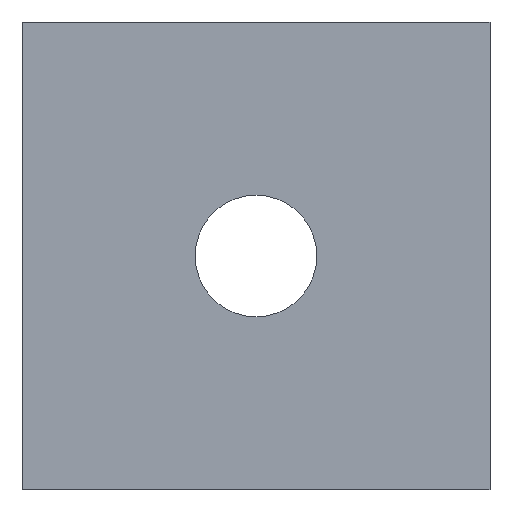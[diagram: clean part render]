
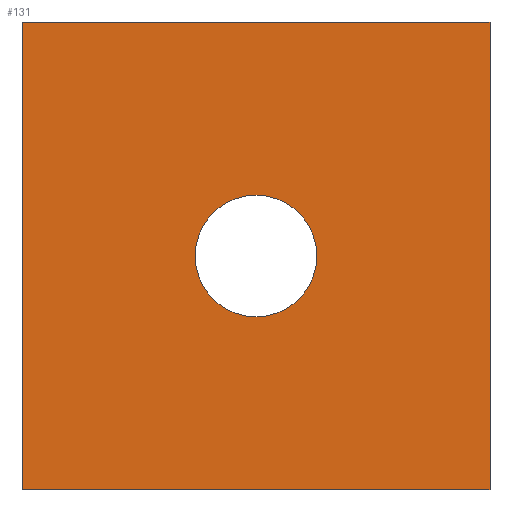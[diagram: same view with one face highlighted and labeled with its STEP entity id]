
A CAD part, left-side view. The second image highlights one B-rep face of the part: STEP entity #131.
In plain terms, the highlighted planar face has unit normal (-1, 0, 0).
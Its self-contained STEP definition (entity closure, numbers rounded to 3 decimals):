
#2 = ORIENTED_EDGE ( 'NONE', *, *, #583, .F. ) ;
#3 = CARTESIAN_POINT ( 'NONE',  ( -40., -12.5, 0. ) ) ;
#5 = CIRCLE ( 'NONE', #410, 3.25 ) ;
#33 = VECTOR ( 'NONE', #545, 1000. ) ;
#46 = DIRECTION ( 'NONE',  ( 1., 0., 0. ) ) ;
#82 = EDGE_CURVE ( 'NONE', #163, #578, #105, .T. ) ;
#99 = CARTESIAN_POINT ( 'NONE',  ( -40., 0., 15.75 ) ) ;
#105 = LINE ( 'NONE', #337, #257 ) ;
#108 = CARTESIAN_POINT ( 'NONE',  ( -40., -12.5, 25. ) ) ;
#110 = FACE_OUTER_BOUND ( 'NONE', #405, .T. ) ;
#123 = VERTEX_POINT ( 'NONE', #99 ) ;
#128 = CARTESIAN_POINT ( 'NONE',  ( -40., -12.5, 0. ) ) ;
#131 = ADVANCED_FACE ( 'NONE', ( #194, #110 ), #289, .F. ) ;
#132 = ORIENTED_EDGE ( 'NONE', *, *, #185, .F. ) ;
#136 = CARTESIAN_POINT ( 'NONE',  ( -40., 0., 9.25 ) ) ;
#138 = DIRECTION ( 'NONE',  ( 0., 0., -1. ) ) ;
#157 = DIRECTION ( 'NONE',  ( 0., -1., 0. ) ) ;
#163 = VERTEX_POINT ( 'NONE', #307 ) ;
#175 = ORIENTED_EDGE ( 'NONE', *, *, #302, .T. ) ;
#183 = CARTESIAN_POINT ( 'NONE',  ( -40., 0., 12.5 ) ) ;
#185 = EDGE_CURVE ( 'NONE', #163, #441, #357, .T. ) ;
#194 = FACE_BOUND ( 'NONE', #216, .T. ) ;
#197 = DIRECTION ( 'NONE',  ( 1., 0., 0. ) ) ;
#216 = EDGE_LOOP ( 'NONE', ( #355, #175 ) ) ;
#224 = VERTEX_POINT ( 'NONE', #128 ) ;
#234 = DIRECTION ( 'NONE',  ( 0., 0., -1. ) ) ;
#257 = VECTOR ( 'NONE', #234, 1000. ) ;
#270 = ORIENTED_EDGE ( 'NONE', *, *, #295, .T. ) ;
#277 = ORIENTED_EDGE ( 'NONE', *, *, #82, .T. ) ;
#280 = CARTESIAN_POINT ( 'NONE',  ( -40., -12.5, 25. ) ) ;
#281 = DIRECTION ( 'NONE',  ( 0., 0., -1. ) ) ;
#283 = VERTEX_POINT ( 'NONE', #136 ) ;
#289 = PLANE ( 'NONE',  #320 ) ;
#295 = EDGE_CURVE ( 'NONE', #578, #224, #452, .T. ) ;
#302 = EDGE_CURVE ( 'NONE', #123, #283, #5, .T. ) ;
#307 = CARTESIAN_POINT ( 'NONE',  ( -40., 12.5, 25. ) ) ;
#320 = AXIS2_PLACEMENT_3D ( 'NONE', #280, #197, #383 ) ;
#337 = CARTESIAN_POINT ( 'NONE',  ( -40., 12.5, 25. ) ) ;
#353 = AXIS2_PLACEMENT_3D ( 'NONE', #586, #362, #281 ) ;
#354 = CARTESIAN_POINT ( 'NONE',  ( -40., -12.5, 25. ) ) ;
#355 = ORIENTED_EDGE ( 'NONE', *, *, #385, .T. ) ;
#357 = LINE ( 'NONE', #354, #530 ) ;
#362 = DIRECTION ( 'NONE',  ( 1., 0., 0. ) ) ;
#383 = DIRECTION ( 'NONE',  ( 0., 0., -1. ) ) ;
#384 = CIRCLE ( 'NONE', #353, 3.25 ) ;
#385 = EDGE_CURVE ( 'NONE', #283, #123, #384, .T. ) ;
#405 = EDGE_LOOP ( 'NONE', ( #270, #2, #132, #277 ) ) ;
#410 = AXIS2_PLACEMENT_3D ( 'NONE', #183, #46, #138 ) ;
#441 = VERTEX_POINT ( 'NONE', #108 ) ;
#447 = CARTESIAN_POINT ( 'NONE',  ( -40., -12.5, 25. ) ) ;
#452 = LINE ( 'NONE', #3, #33 ) ;
#485 = CARTESIAN_POINT ( 'NONE',  ( -40., 12.5, 0. ) ) ;
#528 = DIRECTION ( 'NONE',  ( 0., 0., -1. ) ) ;
#530 = VECTOR ( 'NONE', #157, 1000. ) ;
#545 = DIRECTION ( 'NONE',  ( 0., -1., 0. ) ) ;
#549 = VECTOR ( 'NONE', #528, 1000. ) ;
#567 = LINE ( 'NONE', #447, #549 ) ;
#578 = VERTEX_POINT ( 'NONE', #485 ) ;
#583 = EDGE_CURVE ( 'NONE', #441, #224, #567, .T. ) ;
#586 = CARTESIAN_POINT ( 'NONE',  ( -40., 0., 12.5 ) ) ;
